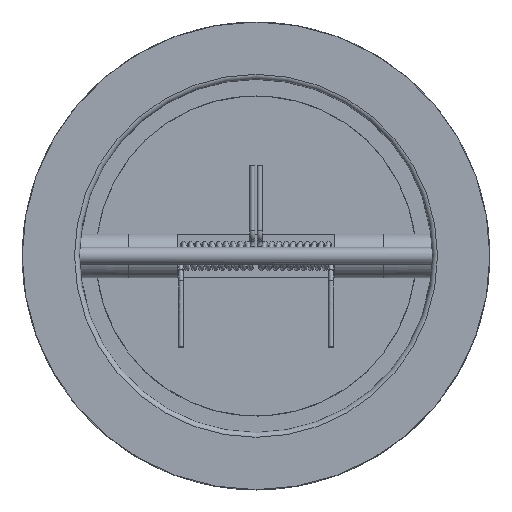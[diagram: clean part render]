
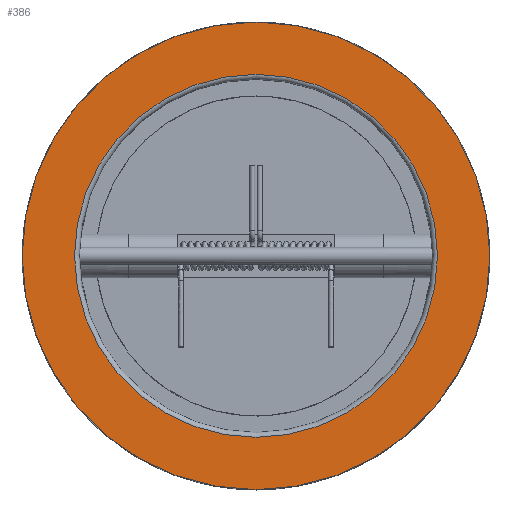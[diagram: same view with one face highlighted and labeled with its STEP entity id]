
A CAD part, top view. The second image highlights one B-rep face of the part: STEP entity #386.
In plain terms, the highlighted planar face has unit normal (0, 0, 1).
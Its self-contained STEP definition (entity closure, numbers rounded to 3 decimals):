
#386 = ADVANCED_FACE( '', ( #1036, #1037 ), #1038, .F. );
#1036 = FACE_BOUND( '', #2196, .T. );
#1037 = FACE_OUTER_BOUND( '', #2197, .T. );
#1038 = PLANE( '', #2198 );
#2196 = EDGE_LOOP( '', ( #10346 ) );
#2197 = EDGE_LOOP( '', ( #10347 ) );
#2198 = AXIS2_PLACEMENT_3D( '', #10348, #10349, #10350 );
#10346 = ORIENTED_EDGE( '', *, *, #12550, .T. );
#10347 = ORIENTED_EDGE( '', *, *, #12551, .F. );
#10348 = CARTESIAN_POINT( '', ( 0., 0., 35. ) );
#10349 = DIRECTION( '', ( 0., 0., -1. ) );
#10350 = DIRECTION( '', ( -1., 0., 0. ) );
#12550 = EDGE_CURVE( '', #13678, #13678, #13679, .T. );
#12551 = EDGE_CURVE( '', #13680, #13680, #13681, .T. );
#13678 = VERTEX_POINT( '', #16137 );
#13679 = CIRCLE( '', #16138, 74.5 );
#13680 = VERTEX_POINT( '', #16139 );
#13681 = CIRCLE( '', #16140, 96. );
#16137 = CARTESIAN_POINT( '', ( -74.5, 0., 35. ) );
#16138 = AXIS2_PLACEMENT_3D( '', #21508, #21509, #21510 );
#16139 = CARTESIAN_POINT( '', ( 96., 0., 35. ) );
#16140 = AXIS2_PLACEMENT_3D( '', #21511, #21512, #21513 );
#21508 = CARTESIAN_POINT( '', ( 0., 0., 35. ) );
#21509 = DIRECTION( '', ( 0., 0., -1. ) );
#21510 = DIRECTION( '', ( -1., 0., 0. ) );
#21511 = CARTESIAN_POINT( '', ( 0., 0., 35. ) );
#21512 = DIRECTION( '', ( 0., 0., -1. ) );
#21513 = DIRECTION( '', ( 1., 0., 0. ) );
